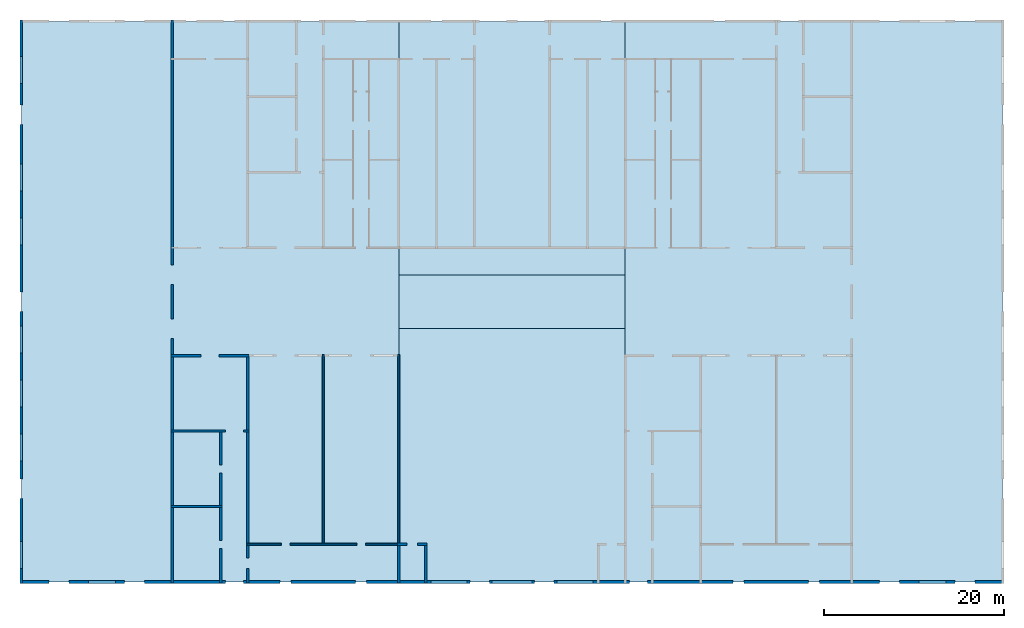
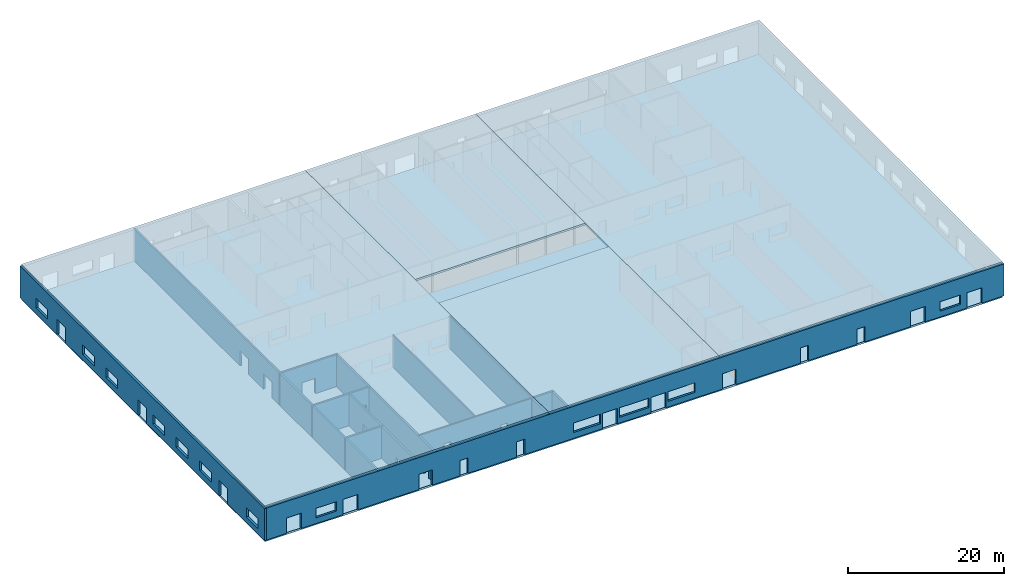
# One storey, part 1 of 4: 14 walls, 5 slabs, 52 openings.
"""IFC4 building model written with IfcOpenShell, lengths in millimetres."""

from ifc_helpers import new_model, si_unit, frame, origin_with_axes, place, context, subcontext, project, spatial, indexed_curve, outline, extrude, type_object, element, save


model = new_model("IFC4")

# Units and contexts
model_context = context("Model", 3, precision=1e-05, world=origin_with_axes())
body_context = subcontext(model_context, "Body", "Model", "MODEL_VIEW")
ifc_project = project(units=[si_unit("AREAUNIT", "SQUARE_METRE"), si_unit("VOLUMEUNIT", "CUBIC_METRE"), si_unit("LENGTHUNIT", "METRE", prefix="MILLI")], contexts=[model_context])

# Site, building, storey
site = spatial("IfcSite", under=ifc_project, Name="PIN 00000000 (sample)")
building = spatial("IfcBuilding", under=site, Name="Sample Shopping Mall")
storey = spatial("IfcBuildingStorey", under=building, Name="Ground Floor", Elevation=0.0)

# Slabs
slab_1_placement = place(None, frame((0.0, 0.0, -300.0), z_axis=(0.0, 0.0, 1.0), x_axis=(1.0, 0.0, 0.0)))
element("IfcSlab", 1, at=slab_1_placement, inside=storey, Name="Ground slab", PredefinedType="FLOOR", context=body_context, shape_type="SweptSolid", body=[
    extrude(outline(indexed_curve([(5400.0, 15600.0), (114599.99999999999, 15600.0), (114599.99999999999, 78000.0), (5400.0, 78000.0)])), None, (0.0, 0.0, 1.0), 300.0),
])
slab_2_placement = place(None, frame((0.0, 0.0, 5000.0), z_axis=(0.0, 0.0, 1.0), x_axis=(1.0, 0.0, 0.0)))
element("IfcSlab", 2, at=slab_2_placement, inside=storey, Name="Roof slab 0", PredefinedType="ROOF", context=body_context, shape_type="SweptSolid", body=[
    extrude(outline(indexed_curve([(5400.0, 15600.0), (47400.0, 15600.0), (47400.0, 78000.0), (5400.0, 78000.0)])), None, (0.0, 0.0, 1.0), 300.0),
])
slab_3_placement = place(None, frame((0.0, 0.0, 5000.0), z_axis=(0.0, 0.0, 1.0), x_axis=(1.0, 0.0, 0.0)))
element("IfcSlab", 3, at=slab_3_placement, inside=storey, Name="Roof slab 1", PredefinedType="ROOF", context=body_context, shape_type="SweptSolid", body=[
    extrude(outline(indexed_curve([(72600.0, 15600.0), (114599.99999999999, 15600.0), (114599.99999999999, 78000.0), (72600.0, 78000.0)])), None, (0.0, 0.0, 1.0), 300.0),
])
slab_4_placement = place(None, frame((0.0, 0.0, 5000.0), z_axis=(0.0, 0.0, 1.0), x_axis=(1.0, 0.0, 0.0)))
element("IfcSlab", 4, at=slab_4_placement, inside=storey, Name="Roof slab 2", PredefinedType="ROOF", context=body_context, shape_type="SweptSolid", body=[
    extrude(outline(indexed_curve([(47400.0, 15600.0), (72600.0, 15600.0), (72600.0, 43799.99999999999), (47400.0, 43799.99999999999)])), None, (0.0, 0.0, 1.0), 300.0),
])
slab_5_placement = place(None, frame((0.0, 0.0, 5000.0), z_axis=(0.0, 0.0, 1.0), x_axis=(1.0, 0.0, 0.0)))
element("IfcSlab", 5, at=slab_5_placement, inside=storey, Name="Roof slab 3", PredefinedType="ROOF", context=body_context, shape_type="SweptSolid", body=[
    extrude(outline(indexed_curve([(47400.0, 49799.99999999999), (72600.0, 49799.99999999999), (72600.0, 78000.0), (47400.0, 78000.0)])), None, (0.0, 0.0, 1.0), 300.0),
])

# Wall, openings
wall_type_1 = type_object("IfcWallType", Name="WT-300", PredefinedType="SOLIDWALL")
wall_1_placement = place(None, frame((5250.0, 15449.999999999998, 0.0), z_axis=(0.0, 0.0, 1.0), x_axis=(1.0, 0.0, 0.0)))
wall_1 = element("IfcWall", 6, at=wall_1_placement, inside=storey, type_object=wall_type_1, Name="W0", context=body_context, shape_type="SweptSolid", body=[
    extrude(outline(indexed_curve([(0.0, 0.0), (0.0, 300.0), (109499.99999999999, 300.0), (109499.99999999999, 0.0), (0.0, 0.0)], self_intersect=False)), origin_with_axes(), (0.0, 0.0, 1.0), 5000.0),
])
opening_1_placement = place(wall_1_placement, frame((50049.99999999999, -99.99999999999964, 0.0), z_axis=(0.0, 0.0, 1.0), x_axis=(1.0, 0.0, 0.0)))
element("IfcOpeningElement", 7, at=opening_1_placement, cuts=wall_1, Name="D03-opening", context=body_context, shape_type="SweptSolid", body=[
    extrude(outline(indexed_curve([(0.0, 0.0), (0.0, 500.0), (1100.0, 500.0), (1100.0, 0.0), (0.0, 0.0)], self_intersect=False)), origin_with_axes(), (0.0, 0.0, 1.0), 2400.0),
])
opening_2_placement = place(wall_1_placement, frame((51150.0, -99.99999999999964, 0.0), z_axis=(0.0, 0.0, 1.0), x_axis=(1.0, 0.0, 0.0)))
element("IfcOpeningElement", 8, at=opening_2_placement, cuts=wall_1, Name="-opening", context=body_context, shape_type="SweptSolid", body=[
    extrude(outline(indexed_curve([(0.0, 0.0), (0.0, 500.0), (1100.0, 500.0), (1100.0, 0.0), (0.0, 0.0)], self_intersect=False)), origin_with_axes(), (0.0, 0.0, 1.0), 2400.0),
])
opening_3_placement = place(wall_1_placement, frame((57250.0, -99.99999999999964, 0.0), z_axis=(0.0, 0.0, 1.0), x_axis=(1.0, 0.0, 0.0)))
element("IfcOpeningElement", 9, at=opening_3_placement, cuts=wall_1, Name="D04-opening", context=body_context, shape_type="SweptSolid", body=[
    extrude(outline(indexed_curve([(0.0, 0.0), (0.0, 500.0), (1100.0, 500.0), (1100.0, 0.0), (0.0, 0.0)], self_intersect=False)), origin_with_axes(), (0.0, 0.0, 1.0), 2400.0),
])
opening_4_placement = place(wall_1_placement, frame((58350.0, -99.99999999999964, 0.0), z_axis=(0.0, 0.0, 1.0), x_axis=(1.0, 0.0, 0.0)))
element("IfcOpeningElement", 10, at=opening_4_placement, cuts=wall_1, Name="-opening", context=body_context, shape_type="SweptSolid", body=[
    extrude(outline(indexed_curve([(0.0, 0.0), (0.0, 500.0), (1100.0, 500.0), (1100.0, 0.0), (0.0, 0.0)], self_intersect=False)), origin_with_axes(), (0.0, 0.0, 1.0), 2400.0),
])
opening_5_placement = place(wall_1_placement, frame((3250.0, -99.99999999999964, 0.0), z_axis=(0.0, 0.0, 1.0), x_axis=(1.0, 0.0, 0.0)))
element("IfcOpeningElement", 11, at=opening_5_placement, cuts=wall_1, Name="D10-opening", context=body_context, shape_type="SweptSolid", body=[
    extrude(outline(indexed_curve([(0.0, 0.0), (0.0, 500.0), (1100.0, 500.0), (1100.0, 0.0), (0.0, 0.0)], self_intersect=False)), origin_with_axes(), (0.0, 0.0, 1.0), 2400.0),
])
opening_6_placement = place(wall_1_placement, frame((4350.000000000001, -99.99999999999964, 0.0), z_axis=(0.0, 0.0, 1.0), x_axis=(1.0, 0.0, 0.0)))
element("IfcOpeningElement", 12, at=opening_6_placement, cuts=wall_1, Name="-opening", context=body_context, shape_type="SweptSolid", body=[
    extrude(outline(indexed_curve([(0.0, 0.0), (0.0, 500.0), (1100.0, 500.0), (1100.0, 0.0), (0.0, 0.0)], self_intersect=False)), origin_with_axes(), (0.0, 0.0, 1.0), 2400.0),
])
opening_7_placement = place(wall_1_placement, frame((11649.999999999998, -99.99999999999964, 0.0), z_axis=(0.0, 0.0, 1.0), x_axis=(1.0, 0.0, 0.0)))
element("IfcOpeningElement", 13, at=opening_7_placement, cuts=wall_1, Name="D11-opening", context=body_context, shape_type="SweptSolid", body=[
    extrude(outline(indexed_curve([(0.0, 0.0), (0.0, 500.0), (1100.0, 500.0), (1100.0, 0.0), (0.0, 0.0)], self_intersect=False)), origin_with_axes(), (0.0, 0.0, 1.0), 2400.0),
])
opening_8_placement = place(wall_1_placement, frame((12750.0, -99.99999999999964, 0.0), z_axis=(0.0, 0.0, 1.0), x_axis=(1.0, 0.0, 0.0)))
element("IfcOpeningElement", 14, at=opening_8_placement, cuts=wall_1, Name="-opening", context=body_context, shape_type="SweptSolid", body=[
    extrude(outline(indexed_curve([(0.0, 0.0), (0.0, 500.0), (1100.0, 500.0), (1100.0, 0.0), (0.0, 0.0)], self_intersect=False)), origin_with_axes(), (0.0, 0.0, 1.0), 2400.0),
])
opening_9_placement = place(wall_1_placement, frame((95650.0, -99.99999999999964, 0.0), z_axis=(0.0, 0.0, 1.0), x_axis=(1.0, 0.0, 0.0)))
element("IfcOpeningElement", 15, at=opening_9_placement, cuts=wall_1, Name="D19-opening", context=body_context, shape_type="SweptSolid", body=[
    extrude(outline(indexed_curve([(0.0, 0.0), (0.0, 500.0), (1100.0, 500.0), (1100.0, 0.0), (0.0, 0.0)], self_intersect=False)), origin_with_axes(), (0.0, 0.0, 1.0), 2400.0),
])
opening_10_placement = place(wall_1_placement, frame((96750.0, -99.99999999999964, 0.0), z_axis=(0.0, 0.0, 1.0), x_axis=(1.0, 0.0, 0.0)))
element("IfcOpeningElement", 16, at=opening_10_placement, cuts=wall_1, Name="-opening", context=body_context, shape_type="SweptSolid", body=[
    extrude(outline(indexed_curve([(0.0, 0.0), (0.0, 500.0), (1100.0, 500.0), (1100.0, 0.0), (0.0, 0.0)], self_intersect=False)), origin_with_axes(), (0.0, 0.0, 1.0), 2400.0),
])
opening_11_placement = place(wall_1_placement, frame((104050.00000000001, -99.99999999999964, 0.0), z_axis=(0.0, 0.0, 1.0), x_axis=(1.0, 0.0, 0.0)))
element("IfcOpeningElement", 17, at=opening_11_placement, cuts=wall_1, Name="D20-opening", context=body_context, shape_type="SweptSolid", body=[
    extrude(outline(indexed_curve([(0.0, 0.0), (0.0, 500.0), (1100.0, 500.0), (1100.0, 0.0), (0.0, 0.0)], self_intersect=False)), origin_with_axes(), (0.0, 0.0, 1.0), 2400.0),
])
opening_12_placement = place(wall_1_placement, frame((105150.0, -99.99999999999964, 0.0), z_axis=(0.0, 0.0, 1.0), x_axis=(1.0, 0.0, 0.0)))
element("IfcOpeningElement", 18, at=opening_12_placement, cuts=wall_1, Name="-opening", context=body_context, shape_type="SweptSolid", body=[
    extrude(outline(indexed_curve([(0.0, 0.0), (0.0, 500.0), (1100.0, 500.0), (1100.0, 0.0), (0.0, 0.0)], self_intersect=False)), origin_with_axes(), (0.0, 0.0, 1.0), 2400.0),
])
opening_13_placement = place(wall_1_placement, frame((28950.000000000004, -99.99999999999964, 0.0), z_axis=(0.0, 0.0, 1.0), x_axis=(1.0, 0.0, 0.0)))
element("IfcOpeningElement", 19, at=opening_13_placement, cuts=wall_1, Name="D23-opening", context=body_context, shape_type="SweptSolid", body=[
    extrude(outline(indexed_curve([(0.0, 0.0), (0.0, 500.0), (1200.0, 500.0), (1200.0, 0.0), (0.0, 0.0)], self_intersect=False)), origin_with_axes(), (0.0, 0.0, 1.0), 2400.0),
])
opening_14_placement = place(wall_1_placement, frame((37350.0, -99.99999999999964, 0.0), z_axis=(0.0, 0.0, 1.0), x_axis=(1.0, 0.0, 0.0)))
element("IfcOpeningElement", 20, at=opening_14_placement, cuts=wall_1, Name="D24-opening", context=body_context, shape_type="SweptSolid", body=[
    extrude(outline(indexed_curve([(0.0, 0.0), (0.0, 500.0), (1200.0, 500.0), (1200.0, 0.0), (0.0, 0.0)], self_intersect=False)), origin_with_axes(), (0.0, 0.0, 1.0), 2400.0),
])
opening_15_placement = place(wall_1_placement, frame((79350.0, -99.99999999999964, 0.0), z_axis=(0.0, 0.0, 1.0), x_axis=(1.0, 0.0, 0.0)))
element("IfcOpeningElement", 21, at=opening_15_placement, cuts=wall_1, Name="D25-opening", context=body_context, shape_type="SweptSolid", body=[
    extrude(outline(indexed_curve([(0.0, 0.0), (0.0, 500.0), (1200.0, 500.0), (1200.0, 0.0), (0.0, 0.0)], self_intersect=False)), origin_with_axes(), (0.0, 0.0, 1.0), 2400.0),
])
opening_16_placement = place(wall_1_placement, frame((87750.0, -99.99999999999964, 0.0), z_axis=(0.0, 0.0, 1.0), x_axis=(1.0, 0.0, 0.0)))
element("IfcOpeningElement", 22, at=opening_16_placement, cuts=wall_1, Name="D26-opening", context=body_context, shape_type="SweptSolid", body=[
    extrude(outline(indexed_curve([(0.0, 0.0), (0.0, 500.0), (1200.0, 500.0), (1200.0, 0.0), (0.0, 0.0)], self_intersect=False)), origin_with_axes(), (0.0, 0.0, 1.0), 2400.0),
])
opening_17_placement = place(wall_1_placement, frame((22850.0, -99.99999999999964, 0.0), z_axis=(0.0, 0.0, 1.0), x_axis=(1.0, 0.0, 0.0)))
element("IfcOpeningElement", 23, at=opening_17_placement, cuts=wall_1, Name="D35-opening", context=body_context, shape_type="SweptSolid", body=[
    extrude(outline(indexed_curve([(0.0, 0.0), (0.0, 500.0), (1000.0, 500.0), (1000.0, 0.0), (0.0, 0.0)], self_intersect=False)), origin_with_axes(), (0.0, 0.0, 1.0), 2400.0),
])
opening_18_placement = place(wall_1_placement, frame((23850.0, -99.99999999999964, 0.0), z_axis=(0.0, 0.0, 1.0), x_axis=(1.0, 0.0, 0.0)))
element("IfcOpeningElement", 24, at=opening_18_placement, cuts=wall_1, Name="-opening", context=body_context, shape_type="SweptSolid", body=[
    extrude(outline(indexed_curve([(0.0, 0.0), (0.0, 500.0), (1000.0, 500.0), (1000.0, 0.0), (0.0, 0.0)], self_intersect=False)), origin_with_axes(), (0.0, 0.0, 1.0), 2400.0),
])
opening_19_placement = place(wall_1_placement, frame((67850.0, -99.99999999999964, 0.0), z_axis=(0.0, 0.0, 1.0), x_axis=(1.0, 0.0, 0.0)))
element("IfcOpeningElement", 25, at=opening_19_placement, cuts=wall_1, Name="D45-opening", context=body_context, shape_type="SweptSolid", body=[
    extrude(outline(indexed_curve([(0.0, 0.0), (0.0, 500.0), (1000.0, 500.0), (1000.0, 0.0), (0.0, 0.0)], self_intersect=False)), origin_with_axes(), (0.0, 0.0, 1.0), 2400.0),
])
opening_20_placement = place(wall_1_placement, frame((68850.0, -99.99999999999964, 0.0), z_axis=(0.0, 0.0, 1.0), x_axis=(1.0, 0.0, 0.0)))
element("IfcOpeningElement", 26, at=opening_20_placement, cuts=wall_1, Name="-opening", context=body_context, shape_type="SweptSolid", body=[
    extrude(outline(indexed_curve([(0.0, 0.0), (0.0, 500.0), (1000.0, 500.0), (1000.0, 0.0), (0.0, 0.0)], self_intersect=False)), origin_with_axes(), (0.0, 0.0, 1.0), 2400.0),
])
opening_21_placement = place(wall_1_placement, frame((45750.0, -99.99999999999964, 900.0), z_axis=(0.0, 0.0, 1.0), x_axis=(1.0, 0.0, 0.0)))
element("IfcOpeningElement", 27, at=opening_21_placement, cuts=wall_1, Name="-opening", context=body_context, shape_type="SweptSolid", body=[
    extrude(outline(indexed_curve([(0.0, 0.0), (0.0, 500.0), (4000.0, 500.0), (4000.0, 0.0), (0.0, 0.0)], self_intersect=False)), origin_with_axes(), (0.0, 0.0, 1.0), 1500.0),
])
opening_22_placement = place(wall_1_placement, frame((52549.99999999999, -99.99999999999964, 900.0), z_axis=(0.0, 0.0, 1.0), x_axis=(1.0, 0.0, 0.0)))
element("IfcOpeningElement", 28, at=opening_22_placement, cuts=wall_1, Name="-opening", context=body_context, shape_type="SweptSolid", body=[
    extrude(outline(indexed_curve([(0.0, 0.0), (0.0, 500.0), (4400.0, 500.0), (4400.0, 0.0), (0.0, 0.0)], self_intersect=False)), origin_with_axes(), (0.0, 0.0, 1.0), 1500.0),
])
opening_23_placement = place(wall_1_placement, frame((59750.0, -99.99999999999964, 900.0), z_axis=(0.0, 0.0, 1.0), x_axis=(1.0, 0.0, 0.0)))
element("IfcOpeningElement", 29, at=opening_23_placement, cuts=wall_1, Name="-opening", context=body_context, shape_type="SweptSolid", body=[
    extrude(outline(indexed_curve([(0.0, 0.0), (0.0, 500.0), (4000.0, 500.0), (4000.0, 0.0), (0.0, 0.0)], self_intersect=False)), origin_with_axes(), (0.0, 0.0, 1.0), 1500.0),
])
opening_24_placement = place(wall_1_placement, frame((7650.0, -99.99999999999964, 900.0), z_axis=(0.0, 0.0, 1.0), x_axis=(1.0, 0.0, 0.0)))
element("IfcOpeningElement", 30, at=opening_24_placement, cuts=wall_1, Name="-opening", context=body_context, shape_type="SweptSolid", body=[
    extrude(outline(indexed_curve([(0.0, 0.0), (0.0, 500.0), (3000.0, 500.0), (3000.0, 0.0), (0.0, 0.0)], self_intersect=False)), origin_with_axes(), (0.0, 0.0, 1.0), 1500.0),
])
opening_25_placement = place(wall_1_placement, frame((100050.00000000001, -99.99999999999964, 900.0), z_axis=(0.0, 0.0, 1.0), x_axis=(1.0, 0.0, 0.0)))
element("IfcOpeningElement", 31, at=opening_25_placement, cuts=wall_1, Name="-opening", context=body_context, shape_type="SweptSolid", body=[
    extrude(outline(indexed_curve([(0.0, 0.0), (0.0, 500.0), (3000.0, 500.0), (3000.0, 0.0), (0.0, 0.0)], self_intersect=False)), origin_with_axes(), (0.0, 0.0, 1.0), 1500.0),
])

wall_2_placement = place(None, frame((5550.000000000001, 15449.999999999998, 0.0), z_axis=(0.0, 0.0, 1.0), x_axis=(6.123233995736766e-17, 1.0, 0.0)))
wall_2 = element("IfcWall", 32, at=wall_2_placement, inside=storey, type_object=wall_type_1, Name="W35", context=body_context, shape_type="SweptSolid", body=[
    extrude(outline(indexed_curve([(0.0, 0.0), (0.0, 300.0), (62699.99999999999, 300.0), (62699.99999999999, 0.0), (0.0, 0.0)], self_intersect=False)), origin_with_axes(), (0.0, 0.0, 1.0), 5000.0),
])
opening_26_placement = place(wall_2_placement, frame((9450.0, -99.99999999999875, 0.0), z_axis=(0.0, 0.0, 1.0), x_axis=(1.0, 0.0, 0.0)))
element("IfcOpeningElement", 33, at=opening_26_placement, cuts=wall_2, Name="D07-opening", context=body_context, shape_type="SweptSolid", body=[
    extrude(outline(indexed_curve([(0.0, 0.0), (0.0, 500.0), (1100.0, 500.0), (1100.0, 0.0), (0.0, 0.0)], self_intersect=False)), origin_with_axes(), (0.0, 0.0, 1.0), 2400.0),
])
opening_27_placement = place(wall_2_placement, frame((10550.0, -99.99999999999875, 0.0), z_axis=(0.0, 0.0, 1.0), x_axis=(1.0, 0.0, 0.0)))
element("IfcOpeningElement", 34, at=opening_27_placement, cuts=wall_2, Name="-opening", context=body_context, shape_type="SweptSolid", body=[
    extrude(outline(indexed_curve([(0.0, 0.0), (0.0, 500.0), (1100.0, 500.0), (1100.0, 0.0), (0.0, 0.0)], self_intersect=False)), origin_with_axes(), (0.0, 0.0, 1.0), 2400.0),
])
opening_28_placement = place(wall_2_placement, frame((30250.000000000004, -99.99999999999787, 0.0), z_axis=(0.0, 0.0, 1.0), x_axis=(1.0, 0.0, 0.0)))
element("IfcOpeningElement", 35, at=opening_28_placement, cuts=wall_2, Name="D08-opening", context=body_context, shape_type="SweptSolid", body=[
    extrude(outline(indexed_curve([(0.0, 0.0), (0.0, 500.0), (1100.0, 500.0), (1100.0, 0.0), (0.0, 0.0)], self_intersect=False)), origin_with_axes(), (0.0, 0.0, 1.0), 2400.0),
])
opening_29_placement = place(wall_2_placement, frame((31349.999999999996, -99.99999999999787, 0.0), z_axis=(0.0, 0.0, 1.0), x_axis=(1.0, 0.0, 0.0)))
element("IfcOpeningElement", 36, at=opening_29_placement, cuts=wall_2, Name="-opening", context=body_context, shape_type="SweptSolid", body=[
    extrude(outline(indexed_curve([(0.0, 0.0), (0.0, 500.0), (1100.0, 500.0), (1100.0, 0.0), (0.0, 0.0)], self_intersect=False)), origin_with_axes(), (0.0, 0.0, 1.0), 2400.0),
])
opening_30_placement = place(wall_2_placement, frame((51049.99999999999, -99.99999999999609, 0.0), z_axis=(0.0, 0.0, 1.0), x_axis=(1.0, 0.0, 0.0)))
element("IfcOpeningElement", 37, at=opening_30_placement, cuts=wall_2, Name="D09-opening", context=body_context, shape_type="SweptSolid", body=[
    extrude(outline(indexed_curve([(0.0, 0.0), (0.0, 500.0), (1100.0, 500.0), (1100.0, 0.0), (0.0, 0.0)], self_intersect=False)), origin_with_axes(), (0.0, 0.0, 1.0), 2400.0),
])
opening_31_placement = place(wall_2_placement, frame((52149.99999999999, -99.99999999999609, 0.0), z_axis=(0.0, 0.0, 1.0), x_axis=(1.0, 0.0, 0.0)))
element("IfcOpeningElement", 38, at=opening_31_placement, cuts=wall_2, Name="-opening", context=body_context, shape_type="SweptSolid", body=[
    extrude(outline(indexed_curve([(0.0, 0.0), (0.0, 500.0), (1100.0, 500.0), (1100.0, 0.0), (0.0, 0.0)], self_intersect=False)), origin_with_axes(), (0.0, 0.0, 1.0), 2400.0),
])
opening_32_placement = place(wall_2_placement, frame((1650.000000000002, -99.99999999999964, 900.0), z_axis=(0.0, 0.0, 1.0), x_axis=(1.0, 0.0, 0.0)))
element("IfcOpeningElement", 39, at=opening_32_placement, cuts=wall_2, Name="-opening", context=body_context, shape_type="SweptSolid", body=[
    extrude(outline(indexed_curve([(0.0, 0.0), (0.0, 500.0), (3000.0, 500.0), (3000.0, 0.0), (0.0, 0.0)], self_intersect=False)), origin_with_axes(), (0.0, 0.0, 1.0), 1500.0),
])
opening_33_placement = place(wall_2_placement, frame((13650.000000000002, -99.99999999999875, 900.0), z_axis=(0.0, 0.0, 1.0), x_axis=(1.0, 0.0, 0.0)))
element("IfcOpeningElement", 40, at=opening_33_placement, cuts=wall_2, Name="-opening", context=body_context, shape_type="SweptSolid", body=[
    extrude(outline(indexed_curve([(0.0, 0.0), (0.0, 500.0), (3000.0, 500.0), (3000.0, 0.0), (0.0, 0.0)], self_intersect=False)), origin_with_axes(), (0.0, 0.0, 1.0), 1500.0),
])
opening_34_placement = place(wall_2_placement, frame((19650.0, -99.99999999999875, 900.0), z_axis=(0.0, 0.0, 1.0), x_axis=(1.0, 0.0, 0.0)))
element("IfcOpeningElement", 41, at=opening_34_placement, cuts=wall_2, Name="-opening", context=body_context, shape_type="SweptSolid", body=[
    extrude(outline(indexed_curve([(0.0, 0.0), (0.0, 500.0), (3000.0, 500.0), (3000.0, 0.0), (0.0, 0.0)], self_intersect=False)), origin_with_axes(), (0.0, 0.0, 1.0), 1500.0),
])
opening_35_placement = place(wall_2_placement, frame((25650.0, -99.99999999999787, 900.0), z_axis=(0.0, 0.0, 1.0), x_axis=(1.0, 0.0, 0.0)))
element("IfcOpeningElement", 42, at=opening_35_placement, cuts=wall_2, Name="-opening", context=body_context, shape_type="SweptSolid", body=[
    extrude(outline(indexed_curve([(0.0, 0.0), (0.0, 500.0), (3000.0, 500.0), (3000.0, 0.0), (0.0, 0.0)], self_intersect=False)), origin_with_axes(), (0.0, 0.0, 1.0), 1500.0),
])
opening_36_placement = place(wall_2_placement, frame((37650.00000000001, -99.99999999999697, 900.0), z_axis=(0.0, 0.0, 1.0), x_axis=(1.0, 0.0, 0.0)))
element("IfcOpeningElement", 43, at=opening_36_placement, cuts=wall_2, Name="-opening", context=body_context, shape_type="SweptSolid", body=[
    extrude(outline(indexed_curve([(0.0, 0.0), (0.0, 500.0), (3000.0, 500.0), (3000.0, 0.0), (0.0, 0.0)], self_intersect=False)), origin_with_axes(), (0.0, 0.0, 1.0), 1500.0),
])
opening_37_placement = place(wall_2_placement, frame((43650.00000000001, -99.99999999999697, 900.0), z_axis=(0.0, 0.0, 1.0), x_axis=(1.0, 0.0, 0.0)))
element("IfcOpeningElement", 44, at=opening_37_placement, cuts=wall_2, Name="-opening", context=body_context, shape_type="SweptSolid", body=[
    extrude(outline(indexed_curve([(0.0, 0.0), (0.0, 500.0), (3000.0, 500.0), (3000.0, 0.0), (0.0, 0.0)], self_intersect=False)), origin_with_axes(), (0.0, 0.0, 1.0), 1500.0),
])
opening_38_placement = place(wall_2_placement, frame((55650.00000000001, -99.99999999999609, 900.0), z_axis=(0.0, 0.0, 1.0), x_axis=(1.0, 0.0, 0.0)))
element("IfcOpeningElement", 45, at=opening_38_placement, cuts=wall_2, Name="-opening", context=body_context, shape_type="SweptSolid", body=[
    extrude(outline(indexed_curve([(0.0, 0.0), (0.0, 500.0), (3000.0, 500.0), (3000.0, 0.0), (0.0, 0.0)], self_intersect=False)), origin_with_axes(), (0.0, 0.0, 1.0), 1500.0),
])

wall_type_2 = type_object("IfcWallType", Name="WT-200", PredefinedType="SOLIDWALL")
wall_3_placement = place(None, frame((30500.0, 19700.0, 0.0), z_axis=(0.0, 0.0, 1.0), x_axis=(1.0, 0.0, 0.0)))
wall_3 = element("IfcWall", 46, at=wall_3_placement, inside=storey, type_object=wall_type_2, Name="W1", context=body_context, shape_type="SweptSolid", body=[
    extrude(outline(indexed_curve([(0.0, 0.0), (0.0, 200.0), (16999.999999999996, 200.0), (16999.999999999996, 0.0), (0.0, 0.0)], self_intersect=False)), origin_with_axes(), (0.0, 0.0, 1.0), 5000.0),
])
opening_39_placement = place(wall_3_placement, frame((3800.000000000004, -99.99999999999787, 0.0), z_axis=(0.0, 0.0, 1.0), x_axis=(1.0, 0.0, 0.0)))
element("IfcOpeningElement", 47, at=opening_39_placement, cuts=wall_3, Name="-opening", context=body_context, shape_type="SweptSolid", body=[
    extrude(outline(indexed_curve([(0.0, 0.0), (0.0, 400.0), (1000.0, 400.0), (1000.0, 0.0), (0.0, 0.0)], self_intersect=False)), origin_with_axes(), (0.0, 0.0, 1.0), 2400.0),
])
opening_40_placement = place(wall_3_placement, frame((12200.000000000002, -99.99999999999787, 0.0), z_axis=(0.0, 0.0, 1.0), x_axis=(1.0, 0.0, 0.0)))
element("IfcOpeningElement", 48, at=opening_40_placement, cuts=wall_3, Name="-opening", context=body_context, shape_type="SweptSolid", body=[
    extrude(outline(indexed_curve([(0.0, 0.0), (0.0, 400.0), (1000.0, 400.0), (1000.0, 0.0), (0.0, 0.0)], self_intersect=False)), origin_with_axes(), (0.0, 0.0, 1.0), 2400.0),
])

# Walls
for number, where, z_axis, x_axis, name in (
    (49, (39100.0, 19700.0, 0.0), (0.0, 0.0, 1.0), (6.123233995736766e-17, 1.0, 0.0), "W41"),
    (50, (47500.0, 19700.0, 0.0), (0.0, 0.0, 1.0), (6.123233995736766e-17, 1.0, 0.0), "W46"),
):
    element("IfcWall", number, at=place(None, frame(where, z_axis=z_axis, x_axis=x_axis)), inside=storey, type_object=wall_type_2, Name=name, context=body_context, shape_type="SweptSolid", body=[
        extrude(outline(indexed_curve([(0.0, 0.0), (0.0, 200.0), (21199.999999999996, 200.0), (21199.999999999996, 0.0), (0.0, 0.0)], self_intersect=False)), origin_with_axes(), (0.0, 0.0, 1.0), 5000.0),
    ])

# Wall, opening
wall_type_3 = type_object("IfcWallType", Name="WT-250", PredefinedType="SOLIDWALL")
wall_4_placement = place(None, frame((47275.0, 19675.0, 0.0), z_axis=(0.0, 0.0, 1.0), x_axis=(1.0, 0.0, 0.0)))
wall_4 = element("IfcWall", 51, at=wall_4_placement, inside=storey, type_object=wall_type_3, Name="W2", context=body_context, shape_type="SweptSolid", body=[
    extrude(outline(indexed_curve([(0.0, 0.0), (0.0, 250.0), (3250.0, 250.0), (3250.0, 0.0), (0.0, 0.0)], self_intersect=False)), origin_with_axes(), (0.0, 0.0, 1.0), 5000.0),
])
opening_41_placement = place(wall_4_placement, frame((1024.9999999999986, -100.00000000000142, 0.0), z_axis=(0.0, 0.0, 1.0), x_axis=(1.0, 0.0, 0.0)))
element("IfcOpeningElement", 52, at=opening_41_placement, cuts=wall_4, Name="D01-opening", context=body_context, shape_type="SweptSolid", body=[
    extrude(outline(indexed_curve([(0.0, 0.0), (0.0, 450.0), (1200.0, 450.0), (1200.0, 0.0), (0.0, 0.0)], self_intersect=False)), origin_with_axes(), (0.0, 0.0, 1.0), 2400.0),
])

# Wall
wall_5_placement = place(None, frame((22075.0, 23875.0, 0.0), z_axis=(0.0, 0.0, 1.0), x_axis=(1.0, 0.0, 0.0)))
element("IfcWall", 53, at=wall_5_placement, inside=storey, type_object=wall_type_3, Name="W5", context=body_context, shape_type="SweptSolid", body=[
    extrude(outline(indexed_curve([(0.0, 0.0), (0.0, 250.0), (5650.000000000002, 250.0), (5650.000000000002, 0.0), (0.0, 0.0)], self_intersect=False)), origin_with_axes(), (0.0, 0.0, 1.0), 5000.0),
])

# Wall, openings
wall_6_placement = place(None, frame((22075.0, 32274.999999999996, 0.0), z_axis=(0.0, 0.0, 1.0), x_axis=(1.0, 0.0, 0.0)))
wall_6 = element("IfcWall", 54, at=wall_6_placement, inside=storey, type_object=wall_type_3, Name="W7", context=body_context, shape_type="SweptSolid", body=[
    extrude(outline(indexed_curve([(0.0, 0.0), (0.0, 250.0), (8650.000000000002, 250.0), (8650.000000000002, 0.0), (0.0, 0.0)], self_intersect=False)), origin_with_axes(), (0.0, 0.0, 1.0), 5000.0),
])
opening_42_placement = place(wall_6_placement, frame((6025.000000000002, -100.00000000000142, 0.0), z_axis=(0.0, 0.0, 1.0), x_axis=(1.0, 0.0, 0.0)))
element("IfcOpeningElement", 55, at=opening_42_placement, cuts=wall_6, Name="D34-opening", context=body_context, shape_type="SweptSolid", body=[
    extrude(outline(indexed_curve([(0.0, 0.0), (0.0, 450.0), (1000.0, 450.0), (1000.0, 0.0), (0.0, 0.0)], self_intersect=False)), origin_with_axes(), (0.0, 0.0, 1.0), 2400.0),
])
opening_43_placement = place(wall_6_placement, frame((7025.000000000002, -100.00000000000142, 0.0), z_axis=(0.0, 0.0, 1.0), x_axis=(1.0, 0.0, 0.0)))
element("IfcOpeningElement", 56, at=opening_43_placement, cuts=wall_6, Name="-opening", context=body_context, shape_type="SweptSolid", body=[
    extrude(outline(indexed_curve([(0.0, 0.0), (0.0, 450.0), (1000.0, 450.0), (1000.0, 0.0), (0.0, 0.0)], self_intersect=False)), origin_with_axes(), (0.0, 0.0, 1.0), 2400.0),
])

wall_7_placement = place(None, frame((22075.0, 40674.99999999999, 0.0), z_axis=(0.0, 0.0, 1.0), x_axis=(1.0, 0.0, 0.0)))
wall_7 = element("IfcWall", 57, at=wall_7_placement, inside=storey, type_object=wall_type_3, Name="W9", context=body_context, shape_type="SweptSolid", body=[
    extrude(outline(indexed_curve([(0.0, 0.0), (0.0, 250.0), (8650.000000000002, 250.0), (8650.000000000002, 0.0), (0.0, 0.0)], self_intersect=False)), origin_with_axes(), (0.0, 0.0, 1.0), 5000.0),
])
opening_44_placement = place(wall_7_placement, frame((3324.999999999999, -99.99999999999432, 0.0), z_axis=(0.0, 0.0, 1.0), x_axis=(1.0, 0.0, 0.0)))
element("IfcOpeningElement", 58, at=opening_44_placement, cuts=wall_7, Name="D33-opening", context=body_context, shape_type="SweptSolid", body=[
    extrude(outline(indexed_curve([(0.0, 0.0), (0.0, 450.0), (1000.0, 450.0), (1000.0, 0.0), (0.0, 0.0)], self_intersect=False)), origin_with_axes(), (0.0, 0.0, 1.0), 2400.0),
])
opening_45_placement = place(wall_7_placement, frame((4324.999999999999, -99.99999999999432, 0.0), z_axis=(0.0, 0.0, 1.0), x_axis=(1.0, 0.0, 0.0)))
element("IfcOpeningElement", 59, at=opening_45_placement, cuts=wall_7, Name="-opening", context=body_context, shape_type="SweptSolid", body=[
    extrude(outline(indexed_curve([(0.0, 0.0), (0.0, 450.0), (1000.0, 450.0), (1000.0, 0.0), (0.0, 0.0)], self_intersect=False)), origin_with_axes(), (0.0, 0.0, 1.0), 2400.0),
])

wall_8_placement = place(None, frame((22325.0, 15475.0, 0.0), z_axis=(0.0, 0.0, 1.0), x_axis=(6.123233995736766e-17, 1.0, 0.0)))
wall_8 = element("IfcWall", 60, at=wall_8_placement, inside=storey, type_object=wall_type_3, Name="W36", context=body_context, shape_type="SweptSolid", body=[
    extrude(outline(indexed_curve([(0.0, 0.0), (0.0, 250.0), (62650.0, 250.0), (62650.0, 0.0), (0.0, 0.0)], self_intersect=False)), origin_with_axes(), (0.0, 0.0, 1.0), 5000.0),
])
opening_46_placement = place(wall_8_placement, frame((27225.0, -99.99999999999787, 0.0), z_axis=(0.0, 0.0, 1.0), x_axis=(1.0, 0.0, 0.0)))
element("IfcOpeningElement", 61, at=opening_46_placement, cuts=wall_8, Name="D05-opening", context=body_context, shape_type="SweptSolid", body=[
    extrude(outline(indexed_curve([(0.0, 0.0), (0.0, 450.0), (1100.0, 450.0), (1100.0, 0.0), (0.0, 0.0)], self_intersect=False)), origin_with_axes(), (0.0, 0.0, 1.0), 2400.0),
])
opening_47_placement = place(wall_8_placement, frame((28324.999999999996, -99.99999999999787, 0.0), z_axis=(0.0, 0.0, 1.0), x_axis=(1.0, 0.0, 0.0)))
element("IfcOpeningElement", 62, at=opening_47_placement, cuts=wall_8, Name="-opening", context=body_context, shape_type="SweptSolid", body=[
    extrude(outline(indexed_curve([(0.0, 0.0), (0.0, 450.0), (1100.0, 450.0), (1100.0, 0.0), (0.0, 0.0)], self_intersect=False)), origin_with_axes(), (0.0, 0.0, 1.0), 2400.0),
])
opening_48_placement = place(wall_8_placement, frame((33225.0, -99.99999999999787, 0.0), z_axis=(0.0, 0.0, 1.0), x_axis=(1.0, 0.0, 0.0)))
element("IfcOpeningElement", 63, at=opening_48_placement, cuts=wall_8, Name="D06-opening", context=body_context, shape_type="SweptSolid", body=[
    extrude(outline(indexed_curve([(0.0, 0.0), (0.0, 450.0), (1100.0, 450.0), (1100.0, 0.0), (0.0, 0.0)], self_intersect=False)), origin_with_axes(), (0.0, 0.0, 1.0), 2400.0),
])
opening_49_placement = place(wall_8_placement, frame((34325.0, -99.99999999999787, 0.0), z_axis=(0.0, 0.0, 1.0), x_axis=(1.0, 0.0, 0.0)))
element("IfcOpeningElement", 64, at=opening_49_placement, cuts=wall_8, Name="-opening", context=body_context, shape_type="SweptSolid", body=[
    extrude(outline(indexed_curve([(0.0, 0.0), (0.0, 450.0), (1100.0, 450.0), (1100.0, 0.0), (0.0, 0.0)], self_intersect=False)), origin_with_axes(), (0.0, 0.0, 1.0), 2400.0),
])

wall_9_placement = place(None, frame((27725.0, 15475.0, 0.0), z_axis=(0.0, 0.0, 1.0), x_axis=(6.123233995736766e-17, 1.0, 0.0)))
wall_9 = element("IfcWall", 65, at=wall_9_placement, inside=storey, type_object=wall_type_3, Name="W37", context=body_context, shape_type="SweptSolid", body=[
    extrude(outline(indexed_curve([(0.0, 0.0), (0.0, 250.0), (17049.999999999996, 250.0), (17049.999999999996, 0.0), (0.0, 0.0)], self_intersect=False)), origin_with_axes(), (0.0, 0.0, 1.0), 5000.0),
])
opening_50_placement = place(wall_9_placement, frame((12274.999999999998, -100.00000000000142, 0.0), z_axis=(0.0, 0.0, 1.0), x_axis=(1.0, 0.0, 0.0)))
element("IfcOpeningElement", 66, at=opening_50_placement, cuts=wall_9, Name="-opening", context=body_context, shape_type="SweptSolid", body=[
    extrude(outline(indexed_curve([(0.0, 0.0), (0.0, 450.0), (900.0, 450.0), (900.0, 0.0), (0.0, 0.0)], self_intersect=False)), origin_with_axes(), (0.0, 0.0, 1.0), 2400.0),
])
opening_51_placement = place(wall_9_placement, frame((3875.0, -100.00000000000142, 0.0), z_axis=(0.0, 0.0, 1.0), x_axis=(1.0, 0.0, 0.0)))
element("IfcOpeningElement", 67, at=opening_51_placement, cuts=wall_9, Name="-opening", context=body_context, shape_type="SweptSolid", body=[
    extrude(outline(indexed_curve([(0.0, 0.0), (0.0, 450.0), (900.0, 450.0), (900.0, 0.0), (0.0, 0.0)], self_intersect=False)), origin_with_axes(), (0.0, 0.0, 1.0), 2400.0),
])

# Wall, opening
wall_10_placement = place(None, frame((30725.0, 15475.0, 0.0), z_axis=(0.0, 0.0, 1.0), x_axis=(6.123233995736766e-17, 1.0, 0.0)))
wall_10 = element("IfcWall", 68, at=wall_10_placement, inside=storey, type_object=wall_type_3, Name="W38", context=body_context, shape_type="SweptSolid", body=[
    extrude(outline(indexed_curve([(0.0, 0.0), (0.0, 250.0), (25449.999999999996, 250.0), (25449.999999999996, 0.0), (0.0, 0.0)], self_intersect=False)), origin_with_axes(), (0.0, 0.0, 1.0), 5000.0),
])
opening_52_placement = place(wall_10_placement, frame((1625.0000000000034, -100.00000000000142, 0.0), z_axis=(0.0, 0.0, 1.0), x_axis=(1.0, 0.0, 0.0)))
element("IfcOpeningElement", 69, at=opening_52_placement, cuts=wall_10, Name="-opening", context=body_context, shape_type="SweptSolid", body=[
    extrude(outline(indexed_curve([(0.0, 0.0), (0.0, 450.0), (1200.0, 450.0), (1200.0, 0.0), (0.0, 0.0)], self_intersect=False)), origin_with_axes(), (0.0, 0.0, 1.0), 2400.0),
])

# Walls
for number, where, z_axis, x_axis, name in (
    (70, (47525.0, 15475.0, 0.0), (0.0, 0.0, 1.0), (6.123233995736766e-17, 1.0, 0.0), "W45"),
    (71, (50525.0, 15475.0, 0.0), (0.0, 0.0, 1.0), (6.123233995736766e-17, 1.0, 0.0), "W48"),
):
    element("IfcWall", number, at=place(None, frame(where, z_axis=z_axis, x_axis=x_axis)), inside=storey, type_object=wall_type_3, Name=name, context=body_context, shape_type="SweptSolid", body=[
        extrude(outline(indexed_curve([(0.0, 0.0), (0.0, 250.0), (4450.000000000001, 250.0), (4450.000000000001, 0.0), (0.0, 0.0)], self_intersect=False)), origin_with_axes(), (0.0, 0.0, 1.0), 5000.0),
    ])

save(model, "model.ifc")
